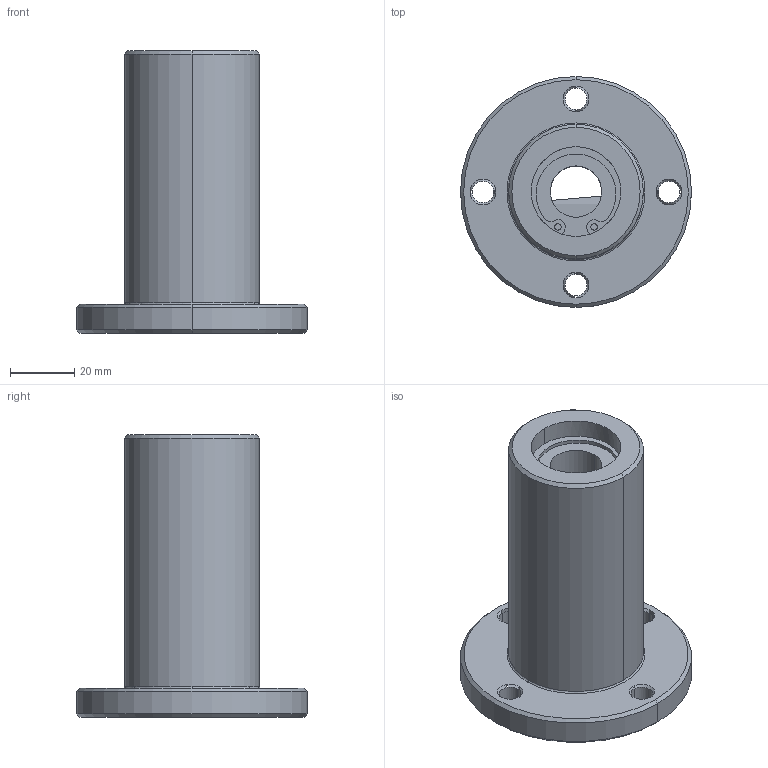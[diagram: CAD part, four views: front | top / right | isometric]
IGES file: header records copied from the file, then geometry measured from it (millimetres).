
Start section: 3D InterOp IGES (Version 21 0 1), Spatial Corp. Copyright (c) 1999-2007.
Global section: file name: LCFD-16AVUU.igs; native system: Spatial Corp.; preprocessor: 3D InterOp GENERIC/IGES 3.0; author: Noname; organization: Noname; date: 20220517.163528; units: millimetre
Bounding box: 72 x 72 x 88 mm (x, y, z)
Surface area: 25236.2 mm2 (no closed solid volume)
Topology: 0 solids, 0 shells, 88 faces, 434 edges, 434 vertices
Faces by surface type: revolution 72, extrusion 16
